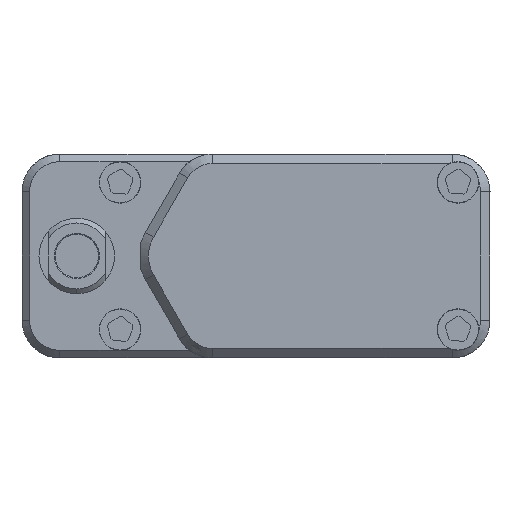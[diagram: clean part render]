
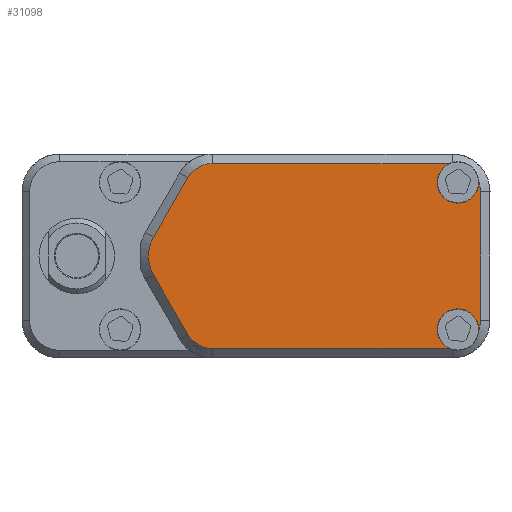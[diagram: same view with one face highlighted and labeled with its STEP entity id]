
A CAD part, front view. The second image highlights one B-rep face of the part: STEP entity #31098.
In plain terms, the highlighted planar face has unit normal (0, -1, 0).
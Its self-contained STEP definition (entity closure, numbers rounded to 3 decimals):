
#177 = CARTESIAN_POINT ( 'NONE',  ( 3.7, 6.7, -5.4 ) ) ;
#329 = CARTESIAN_POINT ( 'NONE',  ( -11.9, 6.7, -2. ) ) ;
#719 = ORIENTED_EDGE ( 'NONE', *, *, #14052, .T. ) ;
#852 = EDGE_CURVE ( 'NONE', #14860, #28849, #39110, .T. ) ;
#1240 = CARTESIAN_POINT ( 'NONE',  ( -10.7, 6.7, -1.5 ) ) ;
#2259 = CARTESIAN_POINT ( 'NONE',  ( 2.314, 6.7, -2. ) ) ;
#2267 = LINE ( 'NONE', #33213, #40485 ) ;
#2776 = ORIENTED_EDGE ( 'NONE', *, *, #22312, .T. ) ;
#2818 = DIRECTION ( 'NONE',  ( -1., 0., 0. ) ) ;
#3901 = CARTESIAN_POINT ( 'NONE',  ( -10.4, 6.7, -8.8 ) ) ;
#4800 = VERTEX_POINT ( 'NONE', #15787 ) ;
#5362 = DIRECTION ( 'NONE',  ( 0., -1., 0. ) ) ;
#5742 = AXIS2_PLACEMENT_3D ( 'NONE', #28850, #33135, #7042 ) ;
#5992 = DIRECTION ( 'NONE',  ( 0., 0., 1. ) ) ;
#6423 = ORIENTED_EDGE ( 'NONE', *, *, #16189, .T. ) ;
#6850 = CARTESIAN_POINT ( 'NONE',  ( -10.7, 6.7, -9.3 ) ) ;
#6937 = DIRECTION ( 'NONE',  ( 0., 0., -1. ) ) ;
#7042 = DIRECTION ( 'NONE',  ( 0., 0., -1. ) ) ;
#8219 = VERTEX_POINT ( 'NONE', #32360 ) ;
#9046 = EDGE_CURVE ( 'NONE', #14280, #24246, #2267, .T. ) ;
#10045 = VERTEX_POINT ( 'NONE', #56019 ) ;
#11682 = DIRECTION ( 'NONE',  ( 0., 1., 0. ) ) ;
#12206 = EDGE_CURVE ( 'NONE', #32523, #4800, #48393, .T. ) ;
#12383 = ORIENTED_EDGE ( 'NONE', *, *, #25581, .T. ) ;
#13058 = DIRECTION ( 'NONE',  ( 0., 1., 0. ) ) ;
#14052 = EDGE_CURVE ( 'NONE', #27063, #28849, #48284, .T. ) ;
#14280 = VERTEX_POINT ( 'NONE', #43486 ) ;
#14399 = CARTESIAN_POINT ( 'NONE',  ( -10.7, 6.7, -8.2 ) ) ;
#14402 = DIRECTION ( 'NONE',  ( 0., 0., -1. ) ) ;
#14413 = AXIS2_PLACEMENT_3D ( 'NONE', #42702, #20911, #21186 ) ;
#14678 = DIRECTION ( 'NONE',  ( 0., 1., 0. ) ) ;
#14860 = VERTEX_POINT ( 'NONE', #329 ) ;
#15398 = AXIS2_PLACEMENT_3D ( 'NONE', #54699, #15406, #20577 ) ;
#15406 = DIRECTION ( 'NONE',  ( 0., 1., 0. ) ) ;
#15787 = CARTESIAN_POINT ( 'NONE',  ( 2.314, 6.7, -10.3 ) ) ;
#16189 = EDGE_CURVE ( 'NONE', #52260, #29120, #34429, .T. ) ;
#16352 = CARTESIAN_POINT ( 'NONE',  ( 5.432, 6.7, -4.4 ) ) ;
#17603 = EDGE_CURVE ( 'NONE', #21822, #10045, #35135, .T. ) ;
#18514 = DIRECTION ( 'NONE',  ( 0., 1., 0. ) ) ;
#19125 = EDGE_CURVE ( 'NONE', #14860, #10045, #27889, .T. ) ;
#19385 = DIRECTION ( 'NONE',  ( 0., 0., -1. ) ) ;
#19571 = VECTOR ( 'NONE', #27601, 1000. ) ;
#20577 = DIRECTION ( 'NONE',  ( 0., 0., 1. ) ) ;
#20911 = DIRECTION ( 'NONE',  ( 0., 1., 0. ) ) ;
#20993 = CARTESIAN_POINT ( 'NONE',  ( 3.613, 6.7, -1.25 ) ) ;
#21186 = DIRECTION ( 'NONE',  ( -1., 0., 0. ) ) ;
#21193 = CARTESIAN_POINT ( 'NONE',  ( 0., 6.7, -10.3 ) ) ;
#21822 = VERTEX_POINT ( 'NONE', #38911 ) ;
#22043 = ORIENTED_EDGE ( 'NONE', *, *, #9046, .T. ) ;
#22312 = EDGE_CURVE ( 'NONE', #21822, #45497, #38527, .T. ) ;
#24246 = VERTEX_POINT ( 'NONE', #33030 ) ;
#24348 = DIRECTION ( 'NONE',  ( 0., 1., 0. ) ) ;
#24442 = VECTOR ( 'NONE', #31237, 1000. ) ;
#24721 = CIRCLE ( 'NONE', #40278, 2. ) ;
#25581 = EDGE_CURVE ( 'NONE', #28058, #4800, #30062, .T. ) ;
#25896 = LINE ( 'NONE', #43405, #19571 ) ;
#27036 = CARTESIAN_POINT ( 'NONE',  ( -10.242, 6.7, -10.3 ) ) ;
#27063 = VERTEX_POINT ( 'NONE', #45490 ) ;
#27601 = DIRECTION ( 'NONE',  ( 0.5, 0., 0.866 ) ) ;
#27889 = LINE ( 'NONE', #28745, #50864 ) ;
#27958 = CARTESIAN_POINT ( 'NONE',  ( 3.613, 6.7, -9.55 ) ) ;
#28058 = VERTEX_POINT ( 'NONE', #27036 ) ;
#28745 = CARTESIAN_POINT ( 'NONE',  ( -11.9, 6.7, -5.4 ) ) ;
#28849 = VERTEX_POINT ( 'NONE', #36232 ) ;
#28850 = CARTESIAN_POINT ( 'NONE',  ( 0., 6.7, -5.4 ) ) ;
#29118 = PLANE ( 'NONE',  #5742 ) ;
#29120 = VERTEX_POINT ( 'NONE', #20993 ) ;
#29395 = FACE_OUTER_BOUND ( 'NONE', #40481, .T. ) ;
#29687 = EDGE_CURVE ( 'NONE', #14280, #29120, #33066, .T. ) ;
#30062 = LINE ( 'NONE', #21193, #43910 ) ;
#30215 = AXIS2_PLACEMENT_3D ( 'NONE', #41143, #18514, #19385 ) ;
#31098 = ADVANCED_FACE ( 'NONE', ( #29395 ), #29118, .T. ) ;
#31237 = DIRECTION ( 'NONE',  ( -0.5, 0., 0.866 ) ) ;
#31819 = EDGE_CURVE ( 'NONE', #24246, #27063, #54189, .T. ) ;
#32360 = CARTESIAN_POINT ( 'NONE',  ( 5.432, 6.7, -6.4 ) ) ;
#32497 = ORIENTED_EDGE ( 'NONE', *, *, #12206, .F. ) ;
#32523 = VERTEX_POINT ( 'NONE', #27958 ) ;
#33030 = CARTESIAN_POINT ( 'NONE',  ( -10.242, 6.7, -0.5 ) ) ;
#33066 = CIRCLE ( 'NONE', #53182, 1.5 ) ;
#33135 = DIRECTION ( 'NONE',  ( 0., -1., 0. ) ) ;
#33213 = CARTESIAN_POINT ( 'NONE',  ( 0., 6.7, -0.5 ) ) ;
#34429 = LINE ( 'NONE', #16352, #24442 ) ;
#35135 = CIRCLE ( 'NONE', #43367, 1.5 ) ;
#36232 = CARTESIAN_POINT ( 'NONE',  ( -11.799, 6.7, -1.46 ) ) ;
#36795 = AXIS2_PLACEMENT_3D ( 'NONE', #1240, #14678, #14402 ) ;
#36866 = ORIENTED_EDGE ( 'NONE', *, *, #19125, .T. ) ;
#36942 = DIRECTION ( 'NONE',  ( 0., 1., 0. ) ) ;
#38527 = CIRCLE ( 'NONE', #44005, 1.1 ) ;
#38911 = CARTESIAN_POINT ( 'NONE',  ( -11.799, 6.7, -9.34 ) ) ;
#39110 = CIRCLE ( 'NONE', #14413, 1.5 ) ;
#40278 = AXIS2_PLACEMENT_3D ( 'NONE', #177, #5362, #48653 ) ;
#40481 = EDGE_LOOP ( 'NONE', ( #53447, #719, #51770, #36866, #44104, #2776, #51898, #12383, #32497, #52089, #50435, #6423, #46232, #22043 ) ) ;
#40485 = VECTOR ( 'NONE', #2818, 1000. ) ;
#40944 = CARTESIAN_POINT ( 'NONE',  ( -10.7, 6.7, -1.5 ) ) ;
#41143 = CARTESIAN_POINT ( 'NONE',  ( -10.7, 6.7, -9.3 ) ) ;
#41564 = DIRECTION ( 'NONE',  ( 0., 0., -1. ) ) ;
#41883 = EDGE_CURVE ( 'NONE', #32523, #8219, #25896, .T. ) ;
#42702 = CARTESIAN_POINT ( 'NONE',  ( -10.4, 6.7, -2. ) ) ;
#43367 = AXIS2_PLACEMENT_3D ( 'NONE', #3901, #13058, #48051 ) ;
#43405 = CARTESIAN_POINT ( 'NONE',  ( 3.613, 6.7, -9.55 ) ) ;
#43486 = CARTESIAN_POINT ( 'NONE',  ( 2.314, 6.7, -0.5 ) ) ;
#43910 = VECTOR ( 'NONE', #47582, 1000. ) ;
#44005 = AXIS2_PLACEMENT_3D ( 'NONE', #6850, #24348, #41564 ) ;
#44104 = ORIENTED_EDGE ( 'NONE', *, *, #17603, .F. ) ;
#45490 = CARTESIAN_POINT ( 'NONE',  ( -10.7, 6.7, -2.6 ) ) ;
#45497 = VERTEX_POINT ( 'NONE', #14399 ) ;
#46232 = ORIENTED_EDGE ( 'NONE', *, *, #29687, .F. ) ;
#47582 = DIRECTION ( 'NONE',  ( 1., 0., 0. ) ) ;
#48051 = DIRECTION ( 'NONE',  ( 0., 0., 1. ) ) ;
#48284 = CIRCLE ( 'NONE', #53755, 1.1 ) ;
#48393 = CIRCLE ( 'NONE', #15398, 1.5 ) ;
#48653 = DIRECTION ( 'NONE',  ( 0., 0., 1. ) ) ;
#50381 = CIRCLE ( 'NONE', #30215, 1.1 ) ;
#50435 = ORIENTED_EDGE ( 'NONE', *, *, #52557, .T. ) ;
#50864 = VECTOR ( 'NONE', #6937, 1000. ) ;
#50907 = EDGE_CURVE ( 'NONE', #45497, #28058, #50381, .T. ) ;
#51770 = ORIENTED_EDGE ( 'NONE', *, *, #852, .F. ) ;
#51898 = ORIENTED_EDGE ( 'NONE', *, *, #50907, .T. ) ;
#52089 = ORIENTED_EDGE ( 'NONE', *, *, #41883, .T. ) ;
#52256 = CARTESIAN_POINT ( 'NONE',  ( 5.432, 6.7, -4.4 ) ) ;
#52260 = VERTEX_POINT ( 'NONE', #52256 ) ;
#52557 = EDGE_CURVE ( 'NONE', #8219, #52260, #24721, .T. ) ;
#53182 = AXIS2_PLACEMENT_3D ( 'NONE', #2259, #36942, #5992 ) ;
#53447 = ORIENTED_EDGE ( 'NONE', *, *, #31819, .T. ) ;
#53755 = AXIS2_PLACEMENT_3D ( 'NONE', #40944, #11682, #54136 ) ;
#54136 = DIRECTION ( 'NONE',  ( 0., 0., -1. ) ) ;
#54189 = CIRCLE ( 'NONE', #36795, 1.1 ) ;
#54699 = CARTESIAN_POINT ( 'NONE',  ( 2.314, 6.7, -8.8 ) ) ;
#56019 = CARTESIAN_POINT ( 'NONE',  ( -11.9, 6.7, -8.8 ) ) ;
